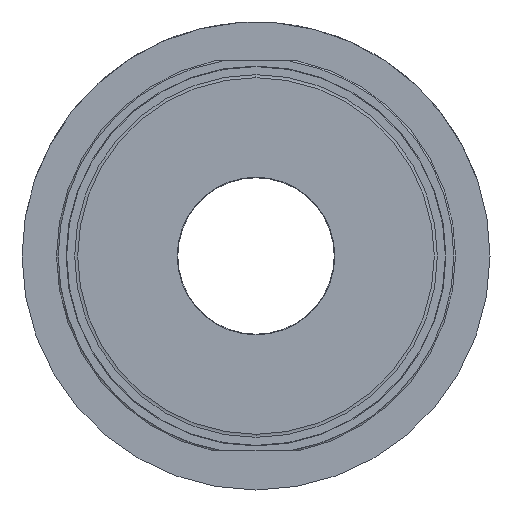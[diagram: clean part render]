
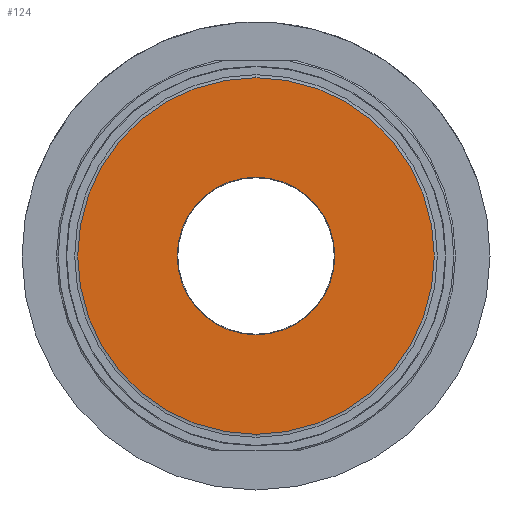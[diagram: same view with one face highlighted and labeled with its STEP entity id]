
A CAD part, front view. The second image highlights one B-rep face of the part: STEP entity #124.
In plain terms, the highlighted planar face has unit normal (0, -1, 0).
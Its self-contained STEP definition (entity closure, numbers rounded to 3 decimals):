
#124 = ADVANCED_FACE( '', ( #240, #241 ), #242, .T. );
#240 = FACE_BOUND( '', #373, .T. );
#241 = FACE_OUTER_BOUND( '', #374, .T. );
#242 = PLANE( '', #375 );
#373 = EDGE_LOOP( '', ( #790, #791, #792 ) );
#374 = EDGE_LOOP( '', ( #793, #794 ) );
#375 = AXIS2_PLACEMENT_3D( '', #795, #796, #797 );
#790 = ORIENTED_EDGE( '', *, *, #1033, .T. );
#791 = ORIENTED_EDGE( '', *, *, #1011, .T. );
#792 = ORIENTED_EDGE( '', *, *, #1034, .T. );
#793 = ORIENTED_EDGE( '', *, *, #964, .F. );
#794 = ORIENTED_EDGE( '', *, *, #1047, .F. );
#795 = CARTESIAN_POINT( '', ( 16., 0., 0. ) );
#796 = DIRECTION( '', ( 0., -1., 0. ) );
#797 = DIRECTION( '', ( -1., 0., 0. ) );
#964 = EDGE_CURVE( '', #1163, #1165, #1166, .T. );
#1011 = EDGE_CURVE( '', #1248, #1246, #1249, .T. );
#1033 = EDGE_CURVE( '', #1284, #1248, #1285, .T. );
#1034 = EDGE_CURVE( '', #1246, #1284, #1286, .T. );
#1047 = EDGE_CURVE( '', #1165, #1163, #1299, .T. );
#1163 = VERTEX_POINT( '', #1425 );
#1165 = VERTEX_POINT( '', #1428 );
#1166 = CIRCLE( '', #1429, 32. );
#1246 = VERTEX_POINT( '', #1526 );
#1248 = VERTEX_POINT( '', #1528 );
#1249 = CIRCLE( '', #1529, 14.139 );
#1284 = VERTEX_POINT( '', #1632 );
#1285 = CIRCLE( '', #1633, 14.139 );
#1286 = CIRCLE( '', #1634, 14.139 );
#1299 = CIRCLE( '', #1647, 32. );
#1425 = CARTESIAN_POINT( '', ( 32., 0., 0. ) );
#1428 = CARTESIAN_POINT( '', ( -32., 0., 0. ) );
#1429 = AXIS2_PLACEMENT_3D( '', #1820, #1821, #1822 );
#1526 = CARTESIAN_POINT( '', ( 0., 0., 14.139 ) );
#1528 = CARTESIAN_POINT( '', ( 0., 0., -14.139 ) );
#1529 = AXIS2_PLACEMENT_3D( '', #1927, #1928, #1929 );
#1632 = CARTESIAN_POINT( '', ( 14.139, 0., 0. ) );
#1633 = AXIS2_PLACEMENT_3D( '', #1965, #1966, #1967 );
#1634 = AXIS2_PLACEMENT_3D( '', #1968, #1969, #1970 );
#1647 = AXIS2_PLACEMENT_3D( '', #2007, #2008, #2009 );
#1820 = CARTESIAN_POINT( '', ( 0., 0., 0. ) );
#1821 = DIRECTION( '', ( 0., 1., 0. ) );
#1822 = DIRECTION( '', ( 1., 0., 0. ) );
#1927 = CARTESIAN_POINT( '', ( 0., 0., 0. ) );
#1928 = DIRECTION( '', ( 0., 1., 0. ) );
#1929 = DIRECTION( '', ( 1., 0., 0. ) );
#1965 = CARTESIAN_POINT( '', ( 0., 0., 0. ) );
#1966 = DIRECTION( '', ( 0., 1., 0. ) );
#1967 = DIRECTION( '', ( 1., 0., 0. ) );
#1968 = CARTESIAN_POINT( '', ( 0., 0., 0. ) );
#1969 = DIRECTION( '', ( 0., 1., 0. ) );
#1970 = DIRECTION( '', ( 1., 0., 0. ) );
#2007 = CARTESIAN_POINT( '', ( 0., 0., 0. ) );
#2008 = DIRECTION( '', ( 0., 1., 0. ) );
#2009 = DIRECTION( '', ( 1., 0., 0. ) );
